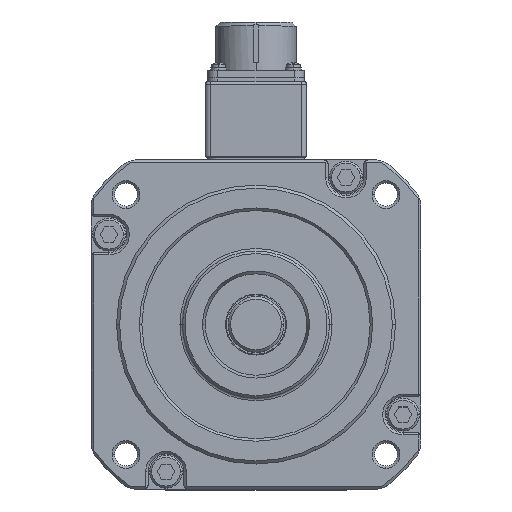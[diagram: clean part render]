
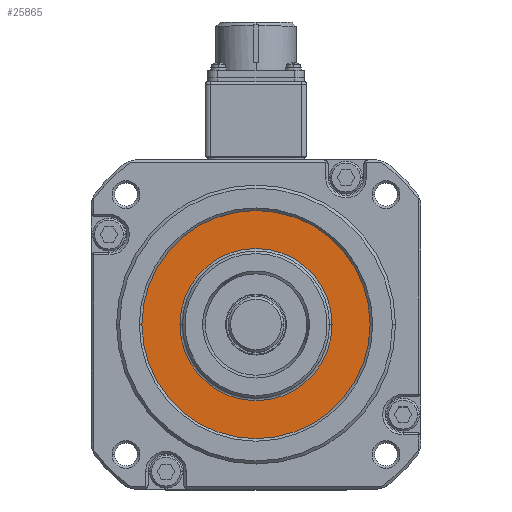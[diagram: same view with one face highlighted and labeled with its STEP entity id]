
A CAD part, top view. The second image highlights one B-rep face of the part: STEP entity #25865.
In plain terms, the highlighted planar face has unit normal (0, 0, 1).
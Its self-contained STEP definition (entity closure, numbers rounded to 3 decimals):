
#8677=CARTESIAN_POINT('',(0.,0.,11.5));
#8678=DIRECTION('',(0.,0.,1.));
#8679=DIRECTION('',(1.,0.,0.));
#8680=AXIS2_PLACEMENT_3D('',#8677,#8678,#8679);
#8682=CARTESIAN_POINT('',(0.,0.,11.5));
#8683=DIRECTION('',(0.,0.,1.));
#8684=DIRECTION('',(-1.,0.,0.));
#8685=AXIS2_PLACEMENT_3D('',#8682,#8683,#8684);
#8687=CARTESIAN_POINT('',(0.,0.,11.5));
#8688=DIRECTION('',(0.,0.,1.));
#8689=DIRECTION('',(-1.,0.,0.));
#8690=AXIS2_PLACEMENT_3D('',#8687,#8688,#8689);
#8692=CARTESIAN_POINT('',(0.,0.,11.5));
#8693=DIRECTION('',(0.,0.,1.));
#8694=DIRECTION('',(1.,0.,0.));
#8695=AXIS2_PLACEMENT_3D('',#8692,#8693,#8694);
#11657=CARTESIAN_POINT('',(45.,0.,11.5));
#11658=CARTESIAN_POINT('',(-45.,0.,11.5));
#11659=VERTEX_POINT('',#11657);
#11660=VERTEX_POINT('',#11658);
#11789=CARTESIAN_POINT('',(-30.,0.,11.5));
#11790=CARTESIAN_POINT('',(30.,0.,11.5));
#11791=VERTEX_POINT('',#11789);
#11792=VERTEX_POINT('',#11790);
#25850=CARTESIAN_POINT('',(0.,0.,11.5));
#25851=DIRECTION('',(0.,0.,1.));
#25852=DIRECTION('',(1.,0.,0.));
#25853=AXIS2_PLACEMENT_3D('',#25850,#25851,#25852);
#25854=PLANE('',#25853);
#25855=ORIENTED_EDGE('',*,*,#25830,.F.);
#25856=ORIENTED_EDGE('',*,*,#25844,.F.);
#25857=EDGE_LOOP('',(#25855,#25856));
#25858=FACE_OUTER_BOUND('',#25857,.F.);
#25860=ORIENTED_EDGE('',*,*,#25859,.T.);
#25862=ORIENTED_EDGE('',*,*,#25861,.T.);
#25863=EDGE_LOOP('',(#25860,#25862));
#25864=FACE_BOUND('',#25863,.F.);
#8681=CIRCLE('',#8680,45.);
#8686=CIRCLE('',#8685,45.);
#8691=CIRCLE('',#8690,30.);
#8696=CIRCLE('',#8695,30.);
#25830=EDGE_CURVE('',#11659,#11660,#8681,.T.);
#25844=EDGE_CURVE('',#11660,#11659,#8686,.T.);
#25859=EDGE_CURVE('',#11791,#11792,#8691,.T.);
#25861=EDGE_CURVE('',#11792,#11791,#8696,.T.);
#25865=ADVANCED_FACE('',(#25858,#25864),#25854,.T.);
